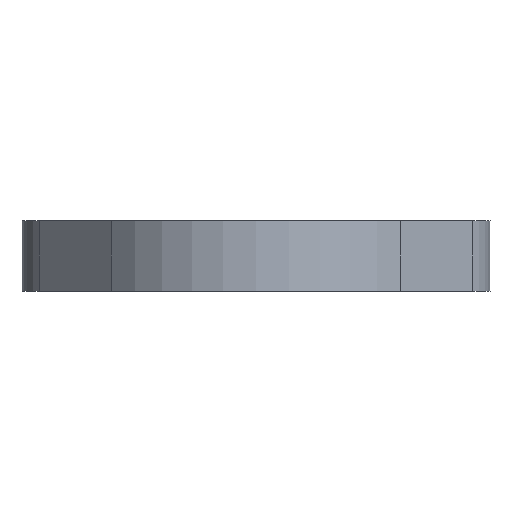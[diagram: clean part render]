
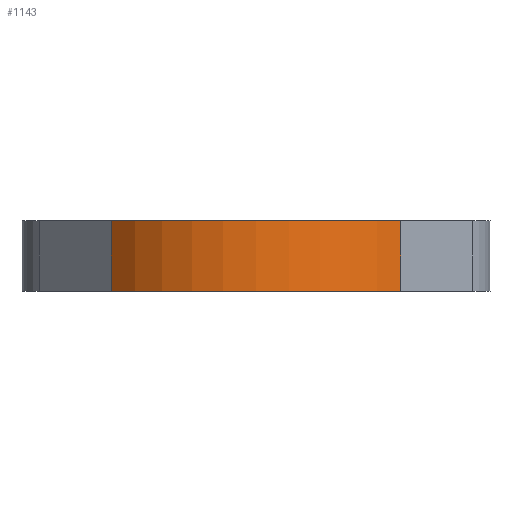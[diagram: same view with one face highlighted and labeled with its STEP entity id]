
A CAD part, left-side view. The second image highlights one B-rep face of the part: STEP entity #1143.
In plain terms, the highlighted cylindrical face has radius 16.5 mm (diameter 33 mm), a partial arc.
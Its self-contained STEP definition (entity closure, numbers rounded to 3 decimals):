
#81 = ORIENTED_EDGE ( 'NONE', *, *, #514, .F. ) ;
#103 = LINE ( 'NONE', #143, #1209 ) ;
#143 = CARTESIAN_POINT ( 'NONE',  ( -10.914, -12.375, -8. ) ) ;
#191 = ORIENTED_EDGE ( 'NONE', *, *, #1094, .T. ) ;
#197 = CARTESIAN_POINT ( 'NONE',  ( 0., 0., -6. ) ) ;
#199 = CARTESIAN_POINT ( 'NONE',  ( -10.914, -12.375, -6. ) ) ;
#337 = EDGE_LOOP ( 'NONE', ( #81, #191, #910, #712 ) ) ;
#413 = DIRECTION ( 'NONE',  ( 0., 0., 1. ) ) ;
#426 = AXIS2_PLACEMENT_3D ( 'NONE', #724, #1253, #619 ) ;
#435 = CARTESIAN_POINT ( 'NONE',  ( -10.914, 12.375, 0. ) ) ;
#468 = CARTESIAN_POINT ( 'NONE',  ( -10.914, -12.375, 0. ) ) ;
#472 = EDGE_CURVE ( 'NONE', #596, #1344, #993, .T. ) ;
#487 = VERTEX_POINT ( 'NONE', #199 ) ;
#514 = EDGE_CURVE ( 'NONE', #1068, #596, #1051, .T. ) ;
#547 = CYLINDRICAL_SURFACE ( 'NONE', #426, 16.5 ) ;
#596 = VERTEX_POINT ( 'NONE', #435 ) ;
#619 = DIRECTION ( 'NONE',  ( 1., 0., 0. ) ) ;
#649 = FACE_OUTER_BOUND ( 'NONE', #337, .T. ) ;
#712 = ORIENTED_EDGE ( 'NONE', *, *, #472, .F. ) ;
#724 = CARTESIAN_POINT ( 'NONE',  ( 0., 0., -8. ) ) ;
#732 = DIRECTION ( 'NONE',  ( 0., 0., 1. ) ) ;
#734 = DIRECTION ( 'NONE',  ( -1., 0., 0. ) ) ;
#815 = CARTESIAN_POINT ( 'NONE',  ( -10.914, 12.375, -6. ) ) ;
#863 = CIRCLE ( 'NONE', #902, 16.5 ) ;
#888 = EDGE_CURVE ( 'NONE', #487, #1344, #103, .T. ) ;
#902 = AXIS2_PLACEMENT_3D ( 'NONE', #197, #413, #734 ) ;
#905 = DIRECTION ( 'NONE',  ( 0., 0., 1. ) ) ;
#910 = ORIENTED_EDGE ( 'NONE', *, *, #888, .T. ) ;
#947 = DIRECTION ( 'NONE',  ( 0., 0., 1. ) ) ;
#961 = CARTESIAN_POINT ( 'NONE',  ( 0., 0., 0. ) ) ;
#993 = CIRCLE ( 'NONE', #1013, 16.5 ) ;
#1013 = AXIS2_PLACEMENT_3D ( 'NONE', #961, #947, #1062 ) ;
#1051 = LINE ( 'NONE', #1160, #1319 ) ;
#1062 = DIRECTION ( 'NONE',  ( 1., 0., 0. ) ) ;
#1068 = VERTEX_POINT ( 'NONE', #815 ) ;
#1094 = EDGE_CURVE ( 'NONE', #1068, #487, #863, .T. ) ;
#1143 = ADVANCED_FACE ( 'NONE', ( #649 ), #547, .T. ) ;
#1160 = CARTESIAN_POINT ( 'NONE',  ( -10.914, 12.375, -8. ) ) ;
#1209 = VECTOR ( 'NONE', #905, 1000. ) ;
#1253 = DIRECTION ( 'NONE',  ( 0., 0., 1. ) ) ;
#1319 = VECTOR ( 'NONE', #732, 1000. ) ;
#1344 = VERTEX_POINT ( 'NONE', #468 ) ;
